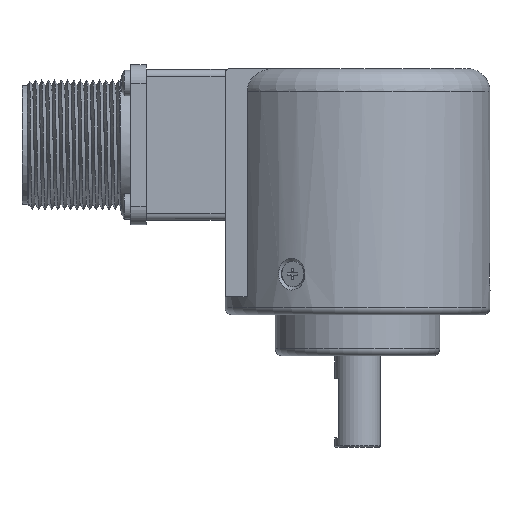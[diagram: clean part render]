
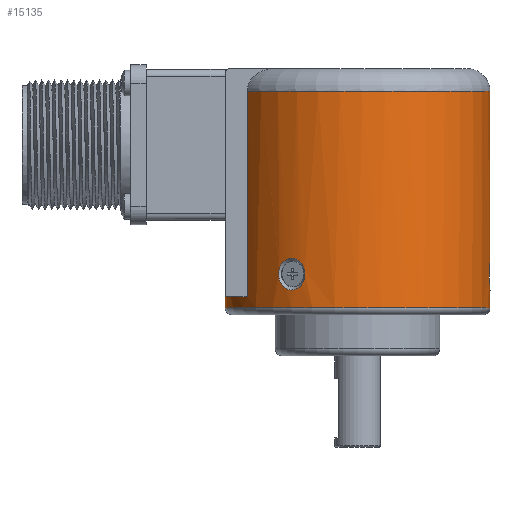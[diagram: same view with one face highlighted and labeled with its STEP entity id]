
A CAD part, front view. The second image highlights one B-rep face of the part: STEP entity #15135.
In plain terms, the highlighted cylindrical face has radius 29 mm (diameter 58 mm), a full revolution.
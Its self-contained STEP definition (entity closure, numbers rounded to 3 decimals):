
#332=CYLINDRICAL_SURFACE('',#16249,29.);
#892=LINE('',#33274,#1513);
#894=LINE('',#33295,#1515);
#1513=VECTOR('',#18677,1000.);
#1515=VECTOR('',#18683,1000.);
#1760=B_SPLINE_CURVE_WITH_KNOTS('',3,(#33176,#33177,#33178,#33179,#33180,
#33181,#33182,#33183,#33184,#33185,#33186,#33187,#33188,#33189),
 .UNSPECIFIED.,.T.,.F.,(1,1,1,1,1,1,1,1,1,1,1,1,1,1,1,1,1,1),(-0.005,
-0.004,-0.003,0.,0.003,0.005,
0.007,0.008,0.009,0.011,
0.013,0.016,0.017,0.019,
0.021,0.024,0.027,0.028),
 .UNSPECIFIED.);
#1762=B_SPLINE_CURVE_WITH_KNOTS('',3,(#33205,#33206,#33207,#33208,#33209,
#33210,#33211,#33212,#33213,#33214,#33215,#33216,#33217,#33218),
 .UNSPECIFIED.,.T.,.F.,(1,1,1,1,1,1,1,1,1,1,1,1,1,1,1,1,1,1),(-0.005,
-0.004,-0.003,0.,0.003,0.005,
0.007,0.008,0.009,0.011,
0.013,0.016,0.017,0.019,
0.021,0.024,0.027,0.028),
 .UNSPECIFIED.);
#1768=B_SPLINE_CURVE_WITH_KNOTS('',3,(#33397,#33398,#33399,#33400,#33401,
#33402,#33403,#33404,#33405,#33406,#33407,#33408,#33409,#33410),
 .UNSPECIFIED.,.T.,.F.,(1,1,1,1,1,1,1,1,1,1,1,1,1,1,1,1,1,1),(-0.005,
-0.004,-0.003,0.,0.003,0.005,
0.007,0.008,0.009,0.011,
0.013,0.016,0.017,0.019,
0.021,0.024,0.027,0.028),
 .UNSPECIFIED.);
#4322=ORIENTED_EDGE('',*,*,#5915,.F.);
#4323=ORIENTED_EDGE('',*,*,#5934,.T.);
#4324=ORIENTED_EDGE('',*,*,#5984,.F.);
#4325=ORIENTED_EDGE('',*,*,#5929,.F.);
#4326=ORIENTED_EDGE('',*,*,#6000,.F.);
#4327=ORIENTED_EDGE('',*,*,#6015,.F.);
#4328=ORIENTED_EDGE('',*,*,#5982,.F.);
#4329=ORIENTED_EDGE('',*,*,#5906,.F.);
#4330=ORIENTED_EDGE('',*,*,#5904,.F.);
#5904=EDGE_CURVE('',#7041,#7041,#1760,.T.);
#5906=EDGE_CURVE('',#7043,#7043,#1762,.T.);
#5915=EDGE_CURVE('',#7049,#7050,#7694,.T.);
#5929=EDGE_CURVE('',#7061,#7062,#892,.T.);
#5934=EDGE_CURVE('',#7049,#7063,#894,.T.);
#5982=EDGE_CURVE('',#7082,#7082,#1768,.T.);
#5984=EDGE_CURVE('',#7062,#7063,#7704,.T.);
#6000=EDGE_CURVE('',#7050,#7061,#7713,.T.);
#6015=EDGE_CURVE('',#7107,#7107,#7728,.T.);
#7041=VERTEX_POINT('',#33190);
#7043=VERTEX_POINT('',#33219);
#7049=VERTEX_POINT('',#33246);
#7050=VERTEX_POINT('',#33247);
#7061=VERTEX_POINT('',#33275);
#7062=VERTEX_POINT('',#33276);
#7063=VERTEX_POINT('',#33294);
#7082=VERTEX_POINT('',#33411);
#7107=VERTEX_POINT('',#33519);
#7694=CIRCLE('',#16142,29.);
#7704=CIRCLE('',#16187,29.);
#7713=CIRCLE('',#16218,29.);
#7728=CIRCLE('',#16248,29.);
#8548=EDGE_LOOP('',(#4322,#4323,#4324,#4325,#4326));
#8549=EDGE_LOOP('',(#4327));
#8550=EDGE_LOOP('',(#4328));
#8551=EDGE_LOOP('',(#4329));
#8552=EDGE_LOOP('',(#4330));
#9473=FACE_BOUND('',#8548,.T.);
#9474=FACE_BOUND('',#8549,.T.);
#9475=FACE_BOUND('',#8550,.T.);
#9476=FACE_BOUND('',#8551,.T.);
#9477=FACE_BOUND('',#8552,.T.);
#15135=ADVANCED_FACE('',(#9473,#9474,#9475,#9476,#9477),#332,.T.);
#16142=AXIS2_PLACEMENT_3D('',#33245,#18655,#18656);
#16187=AXIS2_PLACEMENT_3D('',#33418,#18799,#18800);
#16218=AXIS2_PLACEMENT_3D('',#33471,#18866,#18867);
#16248=AXIS2_PLACEMENT_3D('',#33518,#18926,#18927);
#16249=AXIS2_PLACEMENT_3D('',#33520,#18928,#18929);
#18655=DIRECTION('',(0.,0.,1.));
#18656=DIRECTION('',(1.,0.,0.));
#18677=DIRECTION('',(0.,0.,1.));
#18683=DIRECTION('',(0.,0.,1.));
#18799=DIRECTION('',(0.,0.,1.));
#18800=DIRECTION('',(0.,-1.,0.));
#18866=DIRECTION('',(0.,0.,1.));
#18867=DIRECTION('',(1.,0.,0.));
#18926=DIRECTION('',(0.,0.,-1.));
#18927=DIRECTION('',(-1.,0.,0.));
#18928=DIRECTION('',(0.,0.,1.));
#18929=DIRECTION('',(1.,0.,0.));
#33176=CARTESIAN_POINT('',(-14.086,-25.38,-17.63));
#33177=CARTESIAN_POINT('',(-12.129,-26.365,-16.584));
#33178=CARTESIAN_POINT('',(-11.227,-26.734,-13.882));
#33179=CARTESIAN_POINT('',(-12.032,-26.4,-11.67));
#33180=CARTESIAN_POINT('',(-13.364,-25.748,-10.615));
#33181=CARTESIAN_POINT('',(-14.539,-25.105,-10.338));
#33182=CARTESIAN_POINT('',(-15.68,-24.406,-10.649));
#33183=CARTESIAN_POINT('',(-16.888,-23.589,-11.742));
#33184=CARTESIAN_POINT('',(-17.541,-23.09,-13.98));
#33185=CARTESIAN_POINT('',(-16.848,-23.619,-16.199));
#33186=CARTESIAN_POINT('',(-15.617,-24.446,-17.255));
#33187=CARTESIAN_POINT('',(-14.086,-25.38,-17.63));
#33188=CARTESIAN_POINT('',(-12.129,-26.365,-16.584));
#33189=CARTESIAN_POINT('',(-11.227,-26.734,-13.882));
#33190=CARTESIAN_POINT('',(-12.37,-26.229,-16.342));
#33205=CARTESIAN_POINT('',(-14.936,24.889,-17.63));
#33206=CARTESIAN_POINT('',(-16.768,23.686,-16.584));
#33207=CARTESIAN_POINT('',(-17.539,23.09,-13.882));
#33208=CARTESIAN_POINT('',(-16.847,23.62,-11.67));
#33209=CARTESIAN_POINT('',(-15.616,24.447,-10.615));
#33210=CARTESIAN_POINT('',(-14.471,25.144,-10.338));
#33211=CARTESIAN_POINT('',(-13.296,25.782,-10.649));
#33212=CARTESIAN_POINT('',(-11.985,26.42,-11.742));
#33213=CARTESIAN_POINT('',(-11.226,26.736,-13.98));
#33214=CARTESIAN_POINT('',(-12.03,26.401,-16.199));
#33215=CARTESIAN_POINT('',(-13.362,25.748,-17.255));
#33216=CARTESIAN_POINT('',(-14.936,24.889,-17.63));
#33217=CARTESIAN_POINT('',(-16.768,23.686,-16.584));
#33218=CARTESIAN_POINT('',(-17.539,23.09,-13.882));
#33219=CARTESIAN_POINT('',(-16.53,23.828,-16.342));
#33245=CARTESIAN_POINT('',(0.,0.,-18.935));
#33246=CARTESIAN_POINT('',(-24.187,16.,-18.935));
#33247=CARTESIAN_POINT('',(-29.,0.,-18.935));
#33274=CARTESIAN_POINT('',(-24.187,-16.,-19.045));
#33275=CARTESIAN_POINT('',(-24.187,-16.,-18.935));
#33276=CARTESIAN_POINT('',(-24.187,-16.,26.065));
#33294=CARTESIAN_POINT('',(-24.187,16.,26.065));
#33295=CARTESIAN_POINT('',(-24.187,16.,-19.045));
#33397=CARTESIAN_POINT('',(29.023,0.491,-17.63));
#33398=CARTESIAN_POINT('',(28.897,2.678,-16.584));
#33399=CARTESIAN_POINT('',(28.766,3.644,-13.882));
#33400=CARTESIAN_POINT('',(28.879,2.78,-11.67));
#33401=CARTESIAN_POINT('',(28.98,1.3,-10.615));
#33402=CARTESIAN_POINT('',(29.011,-0.039,-10.338));
#33403=CARTESIAN_POINT('',(28.976,-1.376,-10.649));
#33404=CARTESIAN_POINT('',(28.873,-2.831,-11.742));
#33405=CARTESIAN_POINT('',(28.767,-3.646,-13.98));
#33406=CARTESIAN_POINT('',(28.879,-2.782,-16.199));
#33407=CARTESIAN_POINT('',(28.98,-1.302,-17.255));
#33408=CARTESIAN_POINT('',(29.023,0.491,-17.63));
#33409=CARTESIAN_POINT('',(28.897,2.678,-16.584));
#33410=CARTESIAN_POINT('',(28.766,3.644,-13.882));
#33411=CARTESIAN_POINT('',(28.9,2.402,-16.342));
#33418=CARTESIAN_POINT('',(0.,0.,26.065));
#33471=CARTESIAN_POINT('',(0.,0.,-18.935));
#33518=CARTESIAN_POINT('',(0.,0.,-21.335));
#33519=CARTESIAN_POINT('',(-29.,0.,-21.335));
#33520=CARTESIAN_POINT('',(0.,0.,54.));
